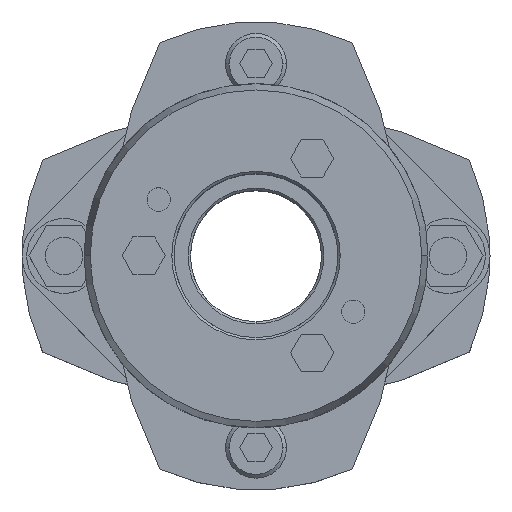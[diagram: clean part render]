
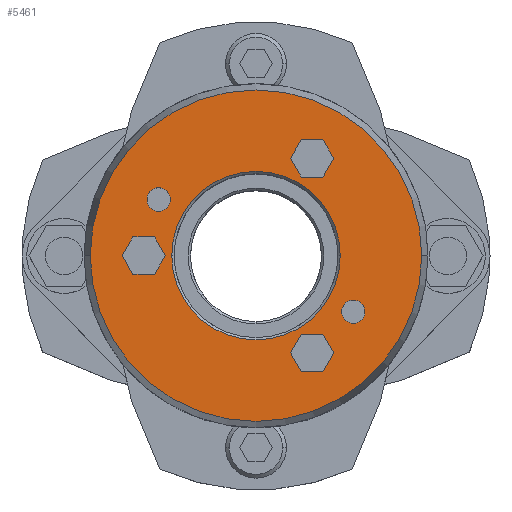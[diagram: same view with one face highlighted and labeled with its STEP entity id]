
A CAD part, top view. The second image highlights one B-rep face of the part: STEP entity #5461.
In plain terms, the highlighted planar face has unit normal (0, 0, 1).
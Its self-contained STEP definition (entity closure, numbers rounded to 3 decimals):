
#857=CARTESIAN_POINT('',(-18.,0.,42.0));
#858=VERTEX_POINT('',#857);
#874=CARTESIAN_POINT('',(18.,0.,42.0));
#875=VERTEX_POINT('',#874);
#882=CARTESIAN_POINT('',(0.,0.,42.0));
#883=DIRECTION('',(0.0,0.0,1.0));
#884=DIRECTION('',(-1.0,0.0,0.0));
#885=AXIS2_PLACEMENT_3D('',#882,#883,#884);
#886=CIRCLE('',#885,18.0);
#887=EDGE_CURVE('',#875,#858,#886,.T.);
#1003=CARTESIAN_POINT('',(35.41,0.,42.0));
#1004=VERTEX_POINT('',#1003);
#1013=CARTESIAN_POINT('',(-35.41,0.,42.0));
#1014=VERTEX_POINT('',#1013);
#1015=CARTESIAN_POINT('',(0.,0.,42.0));
#1016=DIRECTION('',(0.0,0.0,-1.0));
#1017=DIRECTION('',(1.0,0.0,0.0));
#1018=AXIS2_PLACEMENT_3D('',#1015,#1016,#1017);
#1019=CIRCLE('',#1018,35.41);
#1020=EDGE_CURVE('',#1004,#1014,#1019,.T.);
#1189=CARTESIAN_POINT('',(18.285,-12.,42.0));
#1190=VERTEX_POINT('',#1189);
#1206=CARTESIAN_POINT('',(23.285,-12.,42.0));
#1207=VERTEX_POINT('',#1206);
#1214=CARTESIAN_POINT('',(20.785,-12.,42.0));
#1215=DIRECTION('',(0.0,0.0,-1.0));
#1216=DIRECTION('',(-1.0,0.0,0.0));
#1217=AXIS2_PLACEMENT_3D('',#1214,#1215,#1216);
#1218=CIRCLE('',#1217,2.5);
#1219=EDGE_CURVE('',#1190,#1207,#1218,.T.);
#1231=CARTESIAN_POINT('',(-23.285,12.,42.0));
#1232=VERTEX_POINT('',#1231);
#1248=CARTESIAN_POINT('',(-18.285,12.,42.0));
#1249=VERTEX_POINT('',#1248);
#1256=CARTESIAN_POINT('',(-20.785,12.,42.0));
#1257=DIRECTION('',(0.0,0.0,-1.0));
#1258=DIRECTION('',(-1.0,0.0,0.0));
#1259=AXIS2_PLACEMENT_3D('',#1256,#1257,#1258);
#1260=CIRCLE('',#1259,2.5);
#1261=EDGE_CURVE('',#1232,#1249,#1260,.T.);
#4370=CARTESIAN_POINT('',(-20.785,12.,42.0));
#4371=DIRECTION('',(0.0,0.0,-1.0));
#4372=DIRECTION('',(-1.0,0.0,0.0));
#4373=AXIS2_PLACEMENT_3D('',#4370,#4371,#4372);
#4374=CIRCLE('',#4373,2.5);
#4375=EDGE_CURVE('',#1249,#1232,#4374,.T.);
#4404=CARTESIAN_POINT('',(20.785,-12.,42.0));
#4405=DIRECTION('',(0.0,0.0,-1.0));
#4406=DIRECTION('',(-1.0,0.0,0.0));
#4407=AXIS2_PLACEMENT_3D('',#4404,#4405,#4406);
#4408=CIRCLE('',#4407,2.5);
#4409=EDGE_CURVE('',#1207,#1190,#4408,.T.);
#4447=CARTESIAN_POINT('',(7.381,20.785,42.0));
#4448=VERTEX_POINT('',#4447);
#4455=CARTESIAN_POINT('',(9.691,16.785,42.0));
#4456=VERTEX_POINT('',#4455);
#4457=CARTESIAN_POINT('',(9.691,16.785,42.0));
#4458=DIRECTION('',(-0.5,0.866,0.0));
#4459=VECTOR('',#4458,4.619);
#4460=LINE('',#4457,#4459);
#4461=EDGE_CURVE('',#4456,#4448,#4460,.T.);
#4485=CARTESIAN_POINT('',(9.691,24.785,42.0));
#4486=VERTEX_POINT('',#4485);
#4493=CARTESIAN_POINT('',(7.381,20.785,42.0));
#4494=DIRECTION('',(0.5,0.866,0.0));
#4495=VECTOR('',#4494,4.619);
#4496=LINE('',#4493,#4495);
#4497=EDGE_CURVE('',#4448,#4486,#4496,.T.);
#4516=CARTESIAN_POINT('',(14.309,24.785,42.0));
#4517=VERTEX_POINT('',#4516);
#4524=CARTESIAN_POINT('',(9.691,24.785,42.0));
#4525=DIRECTION('',(1.0,0.0,0.0));
#4526=VECTOR('',#4525,4.619);
#4527=LINE('',#4524,#4526);
#4528=EDGE_CURVE('',#4486,#4517,#4527,.T.);
#4547=CARTESIAN_POINT('',(16.619,20.785,42.0));
#4548=VERTEX_POINT('',#4547);
#4555=CARTESIAN_POINT('',(14.309,24.785,42.0));
#4556=DIRECTION('',(0.5,-0.866,0.0));
#4557=VECTOR('',#4556,4.619);
#4558=LINE('',#4555,#4557);
#4559=EDGE_CURVE('',#4517,#4548,#4558,.T.);
#4578=CARTESIAN_POINT('',(14.309,16.785,42.0));
#4579=VERTEX_POINT('',#4578);
#4586=CARTESIAN_POINT('',(16.619,20.785,42.0));
#4587=DIRECTION('',(-0.5,-0.866,0.0));
#4588=VECTOR('',#4587,4.619);
#4589=LINE('',#4586,#4588);
#4590=EDGE_CURVE('',#4548,#4579,#4589,.T.);
#4608=CARTESIAN_POINT('',(14.309,16.785,42.0));
#4609=DIRECTION('',(-1.0,0.0,0.0));
#4610=VECTOR('',#4609,4.619);
#4611=LINE('',#4608,#4610);
#4612=EDGE_CURVE('',#4579,#4456,#4611,.T.);
#4647=CARTESIAN_POINT('',(-28.619,0.,42.0));
#4648=VERTEX_POINT('',#4647);
#4655=CARTESIAN_POINT('',(-26.309,-4.,42.0));
#4656=VERTEX_POINT('',#4655);
#4657=CARTESIAN_POINT('',(-26.309,-4.,42.0));
#4658=DIRECTION('',(-0.5,0.866,0.0));
#4659=VECTOR('',#4658,4.619);
#4660=LINE('',#4657,#4659);
#4661=EDGE_CURVE('',#4656,#4648,#4660,.T.);
#4685=CARTESIAN_POINT('',(-26.309,4.,42.0));
#4686=VERTEX_POINT('',#4685);
#4693=CARTESIAN_POINT('',(-28.619,0.,42.0));
#4694=DIRECTION('',(0.5,0.866,0.0));
#4695=VECTOR('',#4694,4.619);
#4696=LINE('',#4693,#4695);
#4697=EDGE_CURVE('',#4648,#4686,#4696,.T.);
#4716=CARTESIAN_POINT('',(-21.691,4.,42.0));
#4717=VERTEX_POINT('',#4716);
#4724=CARTESIAN_POINT('',(-26.309,4.,42.0));
#4725=DIRECTION('',(1.0,0.0,0.0));
#4726=VECTOR('',#4725,4.619);
#4727=LINE('',#4724,#4726);
#4728=EDGE_CURVE('',#4686,#4717,#4727,.T.);
#4747=CARTESIAN_POINT('',(-19.381,0.,42.0));
#4748=VERTEX_POINT('',#4747);
#4755=CARTESIAN_POINT('',(-21.691,4.,42.0));
#4756=DIRECTION('',(0.5,-0.866,0.0));
#4757=VECTOR('',#4756,4.619);
#4758=LINE('',#4755,#4757);
#4759=EDGE_CURVE('',#4717,#4748,#4758,.T.);
#4778=CARTESIAN_POINT('',(-21.691,-4.,42.0));
#4779=VERTEX_POINT('',#4778);
#4786=CARTESIAN_POINT('',(-19.381,0.,42.0));
#4787=DIRECTION('',(-0.5,-0.866,0.0));
#4788=VECTOR('',#4787,4.619);
#4789=LINE('',#4786,#4788);
#4790=EDGE_CURVE('',#4748,#4779,#4789,.T.);
#4808=CARTESIAN_POINT('',(-21.691,-4.,42.0));
#4809=DIRECTION('',(-1.0,0.0,0.0));
#4810=VECTOR('',#4809,4.619);
#4811=LINE('',#4808,#4810);
#4812=EDGE_CURVE('',#4779,#4656,#4811,.T.);
#4847=CARTESIAN_POINT('',(7.381,-20.785,42.0));
#4848=VERTEX_POINT('',#4847);
#4855=CARTESIAN_POINT('',(9.691,-24.785,42.0));
#4856=VERTEX_POINT('',#4855);
#4857=CARTESIAN_POINT('',(9.691,-24.785,42.0));
#4858=DIRECTION('',(-0.5,0.866,0.0));
#4859=VECTOR('',#4858,4.619);
#4860=LINE('',#4857,#4859);
#4861=EDGE_CURVE('',#4856,#4848,#4860,.T.);
#4885=CARTESIAN_POINT('',(9.691,-16.785,42.0));
#4886=VERTEX_POINT('',#4885);
#4893=CARTESIAN_POINT('',(7.381,-20.785,42.0));
#4894=DIRECTION('',(0.5,0.866,0.0));
#4895=VECTOR('',#4894,4.619);
#4896=LINE('',#4893,#4895);
#4897=EDGE_CURVE('',#4848,#4886,#4896,.T.);
#4916=CARTESIAN_POINT('',(14.309,-16.785,42.0));
#4917=VERTEX_POINT('',#4916);
#4924=CARTESIAN_POINT('',(9.691,-16.785,42.0));
#4925=DIRECTION('',(1.0,0.0,0.0));
#4926=VECTOR('',#4925,4.619);
#4927=LINE('',#4924,#4926);
#4928=EDGE_CURVE('',#4886,#4917,#4927,.T.);
#4947=CARTESIAN_POINT('',(16.619,-20.785,42.0));
#4948=VERTEX_POINT('',#4947);
#4955=CARTESIAN_POINT('',(14.309,-16.785,42.0));
#4956=DIRECTION('',(0.5,-0.866,0.0));
#4957=VECTOR('',#4956,4.619);
#4958=LINE('',#4955,#4957);
#4959=EDGE_CURVE('',#4917,#4948,#4958,.T.);
#4978=CARTESIAN_POINT('',(14.309,-24.785,42.0));
#4979=VERTEX_POINT('',#4978);
#4986=CARTESIAN_POINT('',(16.619,-20.785,42.0));
#4987=DIRECTION('',(-0.5,-0.866,0.0));
#4988=VECTOR('',#4987,4.619);
#4989=LINE('',#4986,#4988);
#4990=EDGE_CURVE('',#4948,#4979,#4989,.T.);
#5008=CARTESIAN_POINT('',(14.309,-24.785,42.0));
#5009=DIRECTION('',(-1.0,0.0,0.0));
#5010=VECTOR('',#5009,4.619);
#5011=LINE('',#5008,#5010);
#5012=EDGE_CURVE('',#4979,#4856,#5011,.T.);
#5400=CARTESIAN_POINT('',(0.,0.,42.0));
#5401=DIRECTION('',(0.0,0.0,-1.0));
#5402=DIRECTION('',(1.0,0.0,0.0));
#5403=AXIS2_PLACEMENT_3D('',#5400,#5401,#5402);
#5404=CIRCLE('',#5403,35.41);
#5405=EDGE_CURVE('',#1014,#1004,#5404,.T.);
#5410=CARTESIAN_POINT('',(-3.114,0.,42.0));
#5411=DIRECTION('',(0.0,0.0,1.0));
#5412=DIRECTION('',(-1.0,0.0,0.0));
#5413=AXIS2_PLACEMENT_3D('',#5410,#5411,#5412);
#5414=PLANE('',#5413);
#5415=ORIENTED_EDGE('',*,*,#5405,.F.);
#5416=ORIENTED_EDGE('',*,*,#1020,.F.);
#5417=EDGE_LOOP('',(#5415,#5416));
#5418=FACE_OUTER_BOUND('',#5417,.T.);
#5419=ORIENTED_EDGE('',*,*,#1261,.T.);
#5420=ORIENTED_EDGE('',*,*,#4375,.T.);
#5421=EDGE_LOOP('',(#5419,#5420));
#5422=FACE_BOUND('',#5421,.T.);
#5423=ORIENTED_EDGE('',*,*,#1219,.T.);
#5424=ORIENTED_EDGE('',*,*,#4409,.T.);
#5425=EDGE_LOOP('',(#5423,#5424));
#5426=FACE_BOUND('',#5425,.T.);
#5427=ORIENTED_EDGE('',*,*,#4461,.T.);
#5428=ORIENTED_EDGE('',*,*,#4497,.T.);
#5429=ORIENTED_EDGE('',*,*,#4528,.T.);
#5430=ORIENTED_EDGE('',*,*,#4559,.T.);
#5431=ORIENTED_EDGE('',*,*,#4590,.T.);
#5432=ORIENTED_EDGE('',*,*,#4612,.T.);
#5433=EDGE_LOOP('',(#5427,#5428,#5429,#5430,#5431,#5432));
#5434=FACE_BOUND('',#5433,.T.);
#5435=ORIENTED_EDGE('',*,*,#4661,.T.);
#5436=ORIENTED_EDGE('',*,*,#4697,.T.);
#5437=ORIENTED_EDGE('',*,*,#4728,.T.);
#5438=ORIENTED_EDGE('',*,*,#4759,.T.);
#5439=ORIENTED_EDGE('',*,*,#4790,.T.);
#5440=ORIENTED_EDGE('',*,*,#4812,.T.);
#5441=EDGE_LOOP('',(#5435,#5436,#5437,#5438,#5439,#5440));
#5442=FACE_BOUND('',#5441,.T.);
#5443=ORIENTED_EDGE('',*,*,#4861,.T.);
#5444=ORIENTED_EDGE('',*,*,#4897,.T.);
#5445=ORIENTED_EDGE('',*,*,#4928,.T.);
#5446=ORIENTED_EDGE('',*,*,#4959,.T.);
#5447=ORIENTED_EDGE('',*,*,#4990,.T.);
#5448=ORIENTED_EDGE('',*,*,#5012,.T.);
#5449=EDGE_LOOP('',(#5443,#5444,#5445,#5446,#5447,#5448));
#5450=FACE_BOUND('',#5449,.T.);
#5451=ORIENTED_EDGE('',*,*,#887,.F.);
#5452=CARTESIAN_POINT('',(0.,0.,42.0));
#5453=DIRECTION('',(0.0,0.0,1.0));
#5454=DIRECTION('',(-1.0,0.0,0.0));
#5455=AXIS2_PLACEMENT_3D('',#5452,#5453,#5454);
#5456=CIRCLE('',#5455,18.0);
#5457=EDGE_CURVE('',#858,#875,#5456,.T.);
#5458=ORIENTED_EDGE('',*,*,#5457,.F.);
#5459=EDGE_LOOP('',(#5451,#5458));
#5460=FACE_BOUND('',#5459,.T.);
#5461=ADVANCED_FACE('',(#5418,#5422,#5426,#5434,#5442,#5450,#5460),#5414,.T.);
